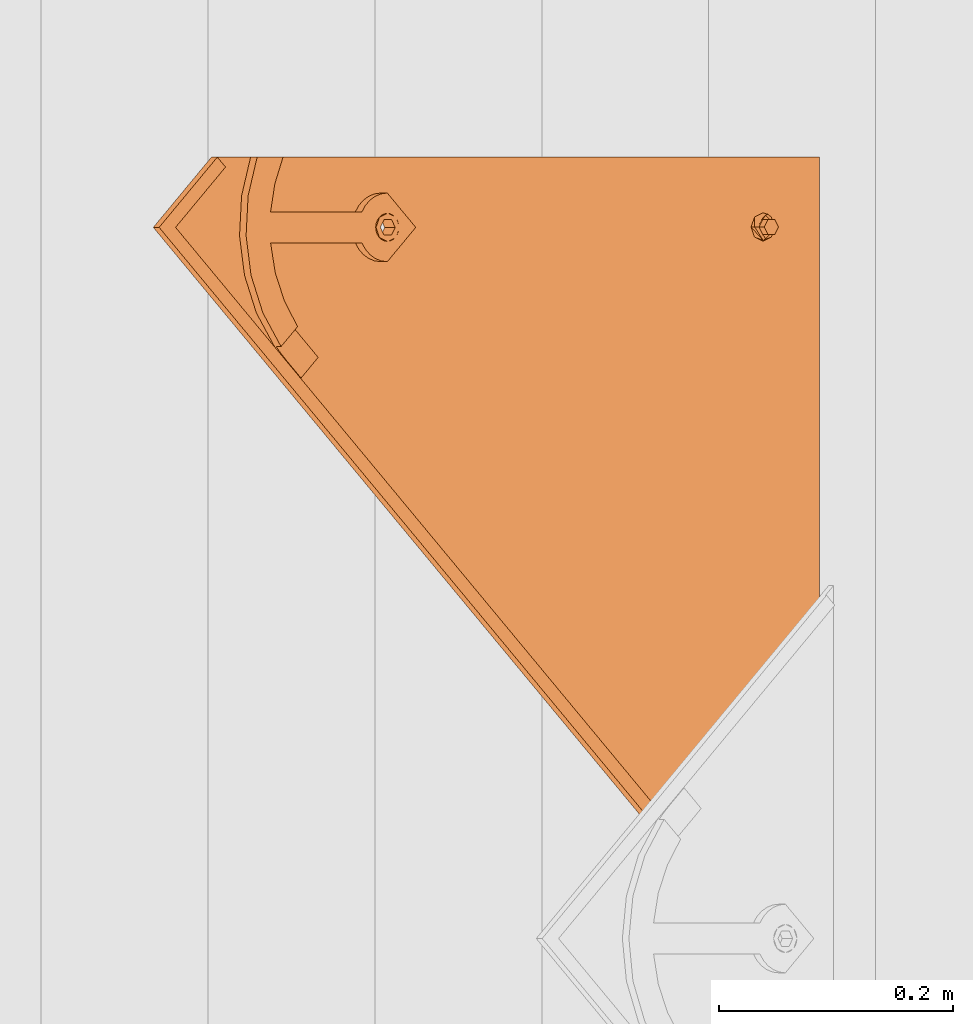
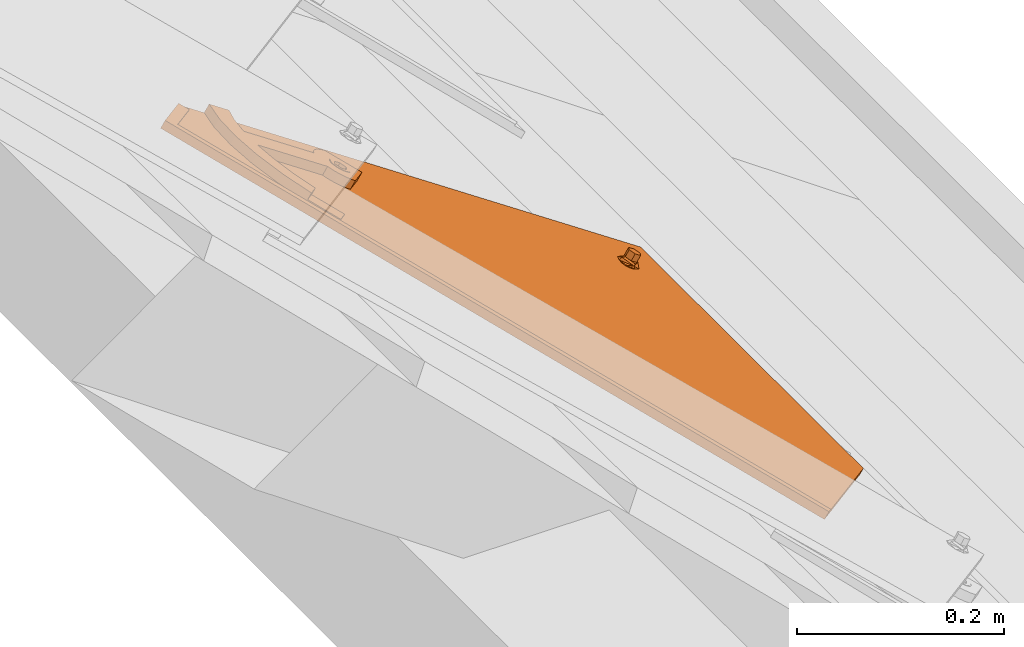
# One storey, part 115 of 133: 1 proxy.
"""IFC2X3 building model written with IfcOpenShell, lengths in millimetres."""

from ifc_helpers import new_model, entity, si_unit, converted_unit, derived_unit, direction, frame, origin, place, context, subcontext, project, spatial, faceted_brep, source, transform, mapped, material, material_list, type_object, type_shapes, element, save


model = new_model("IFC2X3")

# Units and contexts
model_context = context("Model", 3, precision=0.01, world=origin(), true_north=direction((6.12303176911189e-17, 1.0)))
body_context = subcontext(model_context, "Body", "Model", "MODEL_VIEW")
ifc_project = project(units=[si_unit("LENGTHUNIT", "METRE", prefix="MILLI"), si_unit("AREAUNIT", "SQUARE_METRE"), si_unit("VOLUMEUNIT", "CUBIC_METRE"), converted_unit("PLANEANGLEUNIT", "DEGREE", entity("IfcRatioMeasure", 0.0174532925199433), si_unit("PLANEANGLEUNIT", "RADIAN"), dimensions=[0, 0, 0, 0, 0, 0, 0]), si_unit("MASSUNIT", "GRAM", prefix="KILO"), derived_unit("MASSDENSITYUNIT", [(si_unit("MASSUNIT", "GRAM", prefix="KILO"), 1), (si_unit("LENGTHUNIT", "METRE"), -3)]), si_unit("TIMEUNIT", "SECOND"), si_unit("FREQUENCYUNIT", "HERTZ"), si_unit("THERMODYNAMICTEMPERATUREUNIT", "DEGREE_CELSIUS"), derived_unit("THERMALTRANSMITTANCEUNIT", [(si_unit("MASSUNIT", "GRAM", prefix="KILO"), 1), (si_unit("THERMODYNAMICTEMPERATUREUNIT", "KELVIN"), -1), (si_unit("TIMEUNIT", "SECOND"), -3)]), derived_unit("VOLUMETRICFLOWRATEUNIT", [(si_unit("LENGTHUNIT", "METRE"), 3), (si_unit("TIMEUNIT", "SECOND"), -1)]), si_unit("ELECTRICCURRENTUNIT", "AMPERE"), si_unit("ELECTRICVOLTAGEUNIT", "VOLT"), si_unit("POWERUNIT", "WATT"), si_unit("FORCEUNIT", "NEWTON", prefix="KILO"), si_unit("ILLUMINANCEUNIT", "LUX"), si_unit("LUMINOUSFLUXUNIT", "LUMEN"), si_unit("LUMINOUSINTENSITYUNIT", "CANDELA"), derived_unit("USERDEFINED", [(si_unit("MASSUNIT", "GRAM", prefix="KILO"), -1), (si_unit("LENGTHUNIT", "METRE"), -2), (si_unit("TIMEUNIT", "SECOND"), 3), (si_unit("LUMINOUSFLUXUNIT", "LUMEN"), 1)]), derived_unit("LINEARVELOCITYUNIT", [(si_unit("LENGTHUNIT", "METRE"), 1), (si_unit("TIMEUNIT", "SECOND"), -1)]), si_unit("PRESSUREUNIT", "PASCAL"), derived_unit("USERDEFINED", [(si_unit("LENGTHUNIT", "METRE"), -2), (si_unit("MASSUNIT", "GRAM", prefix="KILO"), 1), (si_unit("TIMEUNIT", "SECOND"), -2)])], contexts=[model_context])

# Site, building, storey
site_placement = place(None, origin())
site = spatial("IfcSite", under=ifc_project, at=site_placement, Name="Default", CompositionType="ELEMENT")
building_placement = place(site_placement, origin())
building = spatial("IfcBuilding", under=site, at=building_placement, CompositionType="ELEMENT")
storey_placement = place(building_placement, origin())
storey = spatial("IfcBuildingStorey", under=building, at=storey_placement, Name="Level 1", CompositionType="ELEMENT", Elevation=0.0)

# Proxy
ifc_material_1 = material(Name="Rubber - Sunstyle - Black")
ifc_material_2 = material(Name="Glass - Sunstyle - Tainted Black")
ifc_material_list_1 = material_list([ifc_material_1, ifc_material_2])
ifc_material_list_2 = material_list([ifc_material_1, ifc_material_2])
building_element_proxy_type = type_object("IfcBuildingElementProxyType", Name="Corner Bottom Big Right - Black", PredefinedType="NOTDEFINED", material=ifc_material_list_2)
shared_shape = source(origin(), body_context, "Body", "Brep", [
    faceted_brep([(0.270009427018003, -2.025866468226, -4.01619789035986), (-5.50419340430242, -5.35913660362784, -3.96037390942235), (-5.50419340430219, -4.99082751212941, 18.0314954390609), (0.270009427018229, -1.65755737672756, 17.9756714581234), (-5.50419340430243, -12.0256768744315, -3.84872594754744), (-5.5041934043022, -11.6573677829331, 18.1431434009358), (0.270009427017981, -15.3589470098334, -3.79290196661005), (0.270009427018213, -14.990637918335, 18.1989673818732), (6.04421225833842, -12.0256768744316, -3.84872594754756), (6.04421225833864, -11.6573677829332, 18.1431434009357), (6.04421225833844, -5.35913660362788, -3.96037390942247), (6.04421225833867, -4.99082751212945, 18.0314954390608), (-8.3336947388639, -16.9265954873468, 18.2313898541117), (0.27000942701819, -20.4898667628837, 18.2910657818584), (-11.8974656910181, -8.32409764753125, 18.0873194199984), (-8.33369473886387, 0.278400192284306, 17.9432489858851), (0.270009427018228, 3.84167146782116, 17.8835730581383), (8.87371359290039, 0.278400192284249, 17.9432489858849), (12.4374845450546, -8.32409764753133, 18.0873194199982), (8.87371359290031, -16.9265954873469, 18.2313898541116), (-11.1602134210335, -6.95050198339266, 20.4858706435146), (-9.50050407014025, -8.25322861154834, 22.3189355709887), (0.270009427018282, -0.940007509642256, 22.9603444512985), (0.27000942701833, 0.300490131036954, 22.3799978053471), (0.270009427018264, 2.4580409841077, 21.3706227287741), (-6.05323627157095, -4.59022324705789, 23.0214764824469), (-6.05323627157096, -11.8906547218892, 23.1437405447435), (0.270009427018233, -18.990246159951, 21.7298281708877), (0.270009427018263, -15.5408704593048, 23.2048725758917), (11.2551842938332, -12.0411541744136, 20.3827540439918), (10.3938597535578, -8.25726753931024, 22.077768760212), (6.59325512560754, -4.59022324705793, 23.0214764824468), (6.5932551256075, -11.8906547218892, 23.1437405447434), (-6.05323627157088, -11.7566262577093, 31.1466287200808), (0.270009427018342, -15.4068419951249, 31.207760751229), (0.270009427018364, -8.10641052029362, 31.0854966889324), (-6.05323627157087, -4.456194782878, 31.0243646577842), (6.59325512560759, -11.7566262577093, 31.1466287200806), (6.59325512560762, -4.45619478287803, 31.024364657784), (0.270009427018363, -0.805979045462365, 30.9632326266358), (0.270009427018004, -8.69240673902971, -3.90454992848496)], [[[0, 1, 2, 3]], [[1, 4, 5, 2]], [[4, 6, 7, 5]], [[6, 8, 9, 7]], [[8, 10, 11, 9]], [[10, 0, 3, 11]], [[12, 7, 13]], [[7, 12, 5]], [[14, 5, 12]], [[5, 14, 2]], [[15, 2, 14]], [[3, 2, 15]], [[15, 16, 3]], [[16, 17, 3]], [[11, 3, 17]], [[11, 17, 18]], [[9, 11, 18]], [[18, 19, 9]], [[7, 9, 19]], [[19, 13, 7]], [[15, 20, 16]], [[21, 22, 23, 24]], [[22, 21, 25]], [[20, 14, 12]], [[15, 14, 20]], [[25, 21, 26]], [[20, 24, 16]], [[12, 13, 27]], [[12, 27, 20]], [[21, 28, 26]], [[21, 27, 28]], [[20, 21, 24]], [[20, 27, 21]], [[19, 29, 13]], [[30, 23, 31]], [[30, 28, 27]], [[24, 23, 30]], [[29, 27, 13]], [[19, 18, 29]], [[29, 30, 27]], [[29, 17, 24]], [[24, 17, 16]], [[31, 32, 30]], [[23, 22, 31]], [[28, 30, 32]], [[29, 24, 30]], [[29, 18, 17]], [[33, 34, 35]], [[35, 36, 33]], [[34, 37, 35]], [[38, 35, 37]], [[35, 38, 39]], [[35, 39, 36]], [[40, 6, 4]], [[4, 1, 40]], [[1, 0, 40]], [[40, 8, 6]], [[0, 10, 40]], [[8, 40, 10]], [[22, 25, 36, 39]], [[25, 26, 33, 36]], [[26, 28, 34, 33]], [[28, 32, 37, 34]], [[32, 31, 38, 37]], [[31, 22, 39, 38]]]),
    faceted_brep([(-518.247351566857, 79.9143812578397, 14.9652572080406), (-518.247351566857, 79.9394990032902, 16.4650468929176), (-526.732038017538, 88.4241854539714, 16.3229495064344), (-526.732038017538, 88.399067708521, 14.8231598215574), (-0.00032251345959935, 614.98308737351, 6.00418773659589), (60.1037538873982, 554.895864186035, 7.01049921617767), (51.6190674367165, 546.411177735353, 7.15259660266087), (-0.000322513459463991, 598.016093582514, 6.28834266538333), (-0.000322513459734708, 615.00820511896, 7.50397742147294), (-0.000322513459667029, 598.041211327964, 7.78813235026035), (51.6190674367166, 546.436295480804, 8.65238628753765), (60.1037538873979, 554.920981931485, 8.51028890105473)], [[[0, 1, 2, 3]], [[0, 3, 4, 5, 6, 7]], [[3, 2, 8, 4]], [[2, 1, 9, 10, 11, 8]], [[1, 0, 7, 9]], [[6, 5, 11, 10]], [[4, 8, 11, 5]], [[9, 7, 6, 10]]]),
    faceted_brep([(0.0, 372.774440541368, 20.3195200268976), (0.0, 377.273809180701, 20.2441667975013), (-8.60370416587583, 376.337711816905, 20.2598440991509), (8.60370416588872, 376.337711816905, 20.2598440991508), (6.64022859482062, 381.107009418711, 20.1799702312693), (12.1674751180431, 384.940209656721, 20.1157736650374), (6.64022859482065, 388.773409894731, 20.0515770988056), (8.6037041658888, 393.542707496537, 19.9717032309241), (0.0, 392.606610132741, 19.9873805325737), (0.0, 397.105978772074, 19.9120273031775), (-8.60370416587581, 393.542707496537, 19.9717032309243), (-6.64022859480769, 388.773409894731, 20.0515770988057), (-12.1674751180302, 384.940209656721, 20.1157736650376), (-6.6402285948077, 381.107009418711, 20.1799702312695), (-6.6402282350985, 388.505487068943, 4.05382046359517), (0.0, 392.338687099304, 3.98962390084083), (-6.64022823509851, 380.839087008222, 4.18221358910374), (0.0, 377.005886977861, 4.24641015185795), (6.64022823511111, 380.839087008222, 4.1822135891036), (6.64022823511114, 388.505487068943, 4.05382046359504), (-8.603704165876, 376.069789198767, 4.26208746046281), (0.0, 372.50651792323, 4.32176338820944), (-12.1674751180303, 384.672287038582, 4.11801702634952), (-8.60370416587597, 393.274784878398, 3.97394659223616), (0.0, 396.838056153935, 3.91427066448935), (8.60370416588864, 393.274784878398, 3.97394659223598), (12.1674751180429, 384.672287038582, 4.11801702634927), (8.60370416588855, 376.069789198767, 4.26208746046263)], [[[0, 1, 2]], [[1, 0, 3]], [[3, 4, 1]], [[4, 3, 5]], [[6, 4, 5]], [[5, 7, 6]], [[7, 8, 6]], [[8, 7, 9]], [[8, 9, 10]], [[10, 11, 8]], [[12, 11, 10]], [[2, 13, 12]], [[12, 13, 11]], [[13, 2, 1]], [[8, 11, 14, 15]], [[11, 13, 16, 14]], [[13, 1, 17, 16]], [[1, 4, 18, 17]], [[4, 6, 19, 18]], [[6, 8, 15, 19]], [[20, 17, 21]], [[17, 20, 16]], [[22, 16, 20]], [[14, 16, 22]], [[23, 14, 22]], [[15, 14, 23]], [[23, 24, 15]], [[24, 25, 15]], [[19, 15, 25]], [[19, 25, 26]], [[26, 18, 19]], [[26, 27, 18]], [[17, 18, 27]], [[27, 21, 17]], [[24, 23, 10, 9]], [[10, 23, 22, 12]], [[20, 21, 0, 2]], [[20, 2, 12, 22]], [[21, 27, 3, 0]], [[3, 27, 26, 5]], [[25, 24, 9, 7]], [[25, 7, 5, 26]]]),
    faceted_brep([(-10.3923048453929, 390.78484910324, 9.75895037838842), (-8.48528137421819, 393.269782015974, 9.7173339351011), (-0.00032251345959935, 614.983087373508, 6.0041877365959), (-11.5911099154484, 387.891083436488, 9.8074137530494), (-6.0, 395.176538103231, 9.68540051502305), (-3.10582854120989, 396.37517508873, 9.6653263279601), (60.1037538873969, 554.895864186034, 7.01049921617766), (0.0, 396.784007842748, 9.65847939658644), (3.1058285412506, 396.37517508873, 9.6653263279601), (6.0, 395.176538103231, 9.68540051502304), (8.48528137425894, 393.269782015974, 9.7173339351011), (10.3923048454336, 390.784849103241, 9.75895037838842), (11.5911099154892, 387.891083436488, 9.8074137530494), (12.0, 384.785690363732, 9.8594213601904), (11.5911099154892, 381.680297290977, 9.9114289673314), (60.103753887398, -67.933460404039, 17.4413406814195), (10.3923048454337, 378.786531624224, 9.95989234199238), (6.58173564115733, -3.94243384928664, 16.369650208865), (8.48528137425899, 376.301598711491, 10.0015087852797), (5.31038666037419, -2.28581190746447, 16.3419059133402), (6.0, 374.394842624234, 10.0334422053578), (3.65353241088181, -1.01464118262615, 16.3206169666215), (3.10582854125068, 373.196205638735, 10.0535163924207), (1.72408477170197, -0.215549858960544, 16.3072341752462), (0.0, 372.787372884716, 10.0603633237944), (-0.346467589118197, 0.0570053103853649, 16.3026695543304), (-2.41701994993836, -0.215549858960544, 16.3072341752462), (-3.10582854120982, 373.196205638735, 10.0535163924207), (-4.34646758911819, -1.01464118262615, 16.3206169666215), (-6.0, 374.394842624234, 10.0334422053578), (-6.00332183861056, -2.28581190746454, 16.3419059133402), (-8.48528137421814, 376.301598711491, 10.0015087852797), (-370.355661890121, -67.9334604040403, 17.4413406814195), (-10.3923048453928, 378.786531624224, 9.95989234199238), (-526.732038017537, 88.3990677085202, 14.8231598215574), (-11.5911099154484, 381.680297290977, 9.9114289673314), (-12.0, 384.785690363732, 9.8594213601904), (-7.27467081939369, -3.94243384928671, 16.369650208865), (-8.07387419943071, -5.87161096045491, 16.4019591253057), (-8.34646758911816, -7.94187300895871, 16.4366308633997), (-8.0738741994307, -10.0121350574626, 16.4713026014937), (-7.27467081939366, -11.9413121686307, 16.5036115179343), (-6.00332183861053, -13.5979341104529, 16.5313558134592), (-4.34646758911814, -14.8691048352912, 16.5526447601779), (-2.41701994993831, -15.6681961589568, 16.5660275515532), (7.38093902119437, -5.87161096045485, 16.4019591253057), (7.65353241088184, -7.94187300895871, 16.4366308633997), (7.38093902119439, -10.0121350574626, 16.4713026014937), (6.58173564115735, -11.9413121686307, 16.5036115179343), (5.31038666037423, -13.5979341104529, 16.5313558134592), (3.65353241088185, -14.8691048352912, 16.5526447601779), (1.72408477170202, -15.6681961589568, 16.5660275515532), (-0.346467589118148, -15.9407513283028, 16.570592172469), (-370.355661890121, -68.0590491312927, 9.94239225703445), (-8.0738741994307, -10.1377237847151, 8.97235417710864), (-7.27467081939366, -12.0669008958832, 9.00466309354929), (-8.34646758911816, -8.06746173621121, 8.93768243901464), (-6.00332183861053, -13.7235228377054, 9.03240738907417), (-4.34646758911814, -14.9946935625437, 9.05369633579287), (60.103753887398, -68.0590491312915, 9.94239225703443), (-8.07387419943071, -5.99719968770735, 8.90301070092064), (-7.27467081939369, -4.06802257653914, 8.87070178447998), (-6.00332183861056, -2.41140063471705, 8.8429574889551), (-8.48528137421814, 376.176009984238, 2.50256036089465), (-10.3923048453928, 378.660942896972, 2.46094391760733), (-526.732038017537, 88.2734789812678, 7.32421139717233), (-11.5911099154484, 381.554708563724, 2.41248054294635), (-12.0, 384.66010163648, 2.36047293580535), (-11.5911099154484, 387.765494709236, 2.30846532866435), (-0.00032251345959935, 614.857498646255, -1.49476068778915), (-10.3923048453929, 390.659260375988, 2.26000195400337), (-8.48528137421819, 393.144193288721, 2.21838551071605), (-6.0, 395.050949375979, 2.18645209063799), (-3.10582854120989, 396.249586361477, 2.16637790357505), (60.1037538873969, 554.770275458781, -0.488449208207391), (0.0, 396.658419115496, 2.15953097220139), (3.1058285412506, 396.249586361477, 2.16637790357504), (6.0, 395.050949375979, 2.18645209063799), (8.48528137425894, 393.144193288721, 2.21838551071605), (10.3923048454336, 390.659260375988, 2.26000195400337), (11.5911099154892, 387.765494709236, 2.30846532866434), (12.0, 384.66010163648, 2.36047293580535), (11.5911099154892, 381.554708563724, 2.41248054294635), (-2.41701994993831, -15.7937848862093, 9.06707912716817), (-0.346467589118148, -16.0663400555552, 9.07164374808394), (1.72408477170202, -15.7937848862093, 9.06707912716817), (3.65353241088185, -14.9946935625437, 9.05369633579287), (5.31038666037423, -13.7235228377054, 9.03240738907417), (6.58173564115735, -12.0669008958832, 9.00466309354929), (7.38093902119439, -10.1377237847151, 8.97235417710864), (7.65353241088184, -8.06746173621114, 8.93768243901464), (7.38093902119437, -5.99719968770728, 8.90301070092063), (6.58173564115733, -4.06802257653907, 8.87070178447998), (10.3923048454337, 378.660942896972, 2.46094391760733), (-6.0, 374.269253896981, 2.5344937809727), (-4.34646758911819, -1.14022990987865, 8.8216685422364), (-3.10582854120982, 373.070616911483, 2.55456796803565), (-2.41701994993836, -0.341138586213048, 8.8082857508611), (0.0, 372.661784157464, 2.56141489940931), (-0.346467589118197, -0.0685834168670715, 8.80372112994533), (1.72408477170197, -0.341138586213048, 8.8082857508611), (3.10582854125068, 373.070616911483, 2.55456796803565), (3.65353241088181, -1.14022990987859, 8.8216685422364), (6.0, 374.269253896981, 2.5344937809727), (5.31038666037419, -2.41140063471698, 8.8429574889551), (8.48528137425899, 376.176009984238, 2.50256036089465)], [[[0, 1, 2]], [[3, 0, 2]], [[4, 2, 1]], [[2, 4, 5]], [[6, 2, 5]], [[7, 6, 5]], [[7, 8, 6]], [[8, 9, 6]], [[10, 6, 9]], [[6, 10, 11]], [[6, 11, 12]], [[12, 13, 6]], [[13, 14, 6]], [[6, 14, 15]], [[14, 16, 15]], [[17, 15, 16]], [[18, 17, 16]], [[17, 18, 19]], [[18, 20, 19]], [[21, 19, 20]], [[20, 22, 21]], [[23, 21, 22]], [[24, 23, 22]], [[23, 24, 25]], [[26, 25, 24]], [[24, 27, 26]], [[26, 27, 28]], [[29, 28, 27]], [[28, 29, 30]], [[29, 31, 30]], [[32, 30, 31]], [[33, 32, 31]], [[33, 34, 32]], [[33, 35, 34]], [[35, 36, 34]], [[36, 3, 34]], [[3, 2, 34]], [[30, 32, 37]], [[37, 32, 38]], [[32, 39, 38]], [[39, 32, 40]], [[40, 32, 41]], [[42, 41, 32]], [[42, 32, 43]], [[43, 32, 15]], [[15, 44, 43]], [[17, 45, 15]], [[45, 46, 15]], [[47, 15, 46]], [[47, 48, 15]], [[49, 15, 48]], [[15, 49, 50]], [[50, 51, 15]], [[51, 52, 15]], [[52, 44, 15]], [[53, 54, 55]], [[54, 53, 56]], [[53, 55, 57]], [[57, 58, 53]], [[53, 58, 59]], [[60, 56, 53]], [[61, 60, 53]], [[61, 53, 62]], [[63, 62, 53]], [[64, 63, 53]], [[65, 64, 53]], [[65, 66, 64]], [[66, 65, 67]], [[67, 65, 68]], [[65, 69, 68]], [[70, 68, 69]], [[71, 70, 69]], [[72, 71, 69]], [[69, 73, 72]], [[74, 73, 69]], [[75, 73, 74]], [[76, 75, 74]], [[77, 76, 74]], [[74, 78, 77]], [[78, 74, 79]], [[80, 79, 74]], [[80, 74, 81]], [[82, 81, 74]], [[82, 74, 59]], [[59, 58, 83]], [[84, 59, 83]], [[84, 85, 59]], [[85, 86, 59]], [[87, 59, 86]], [[59, 87, 88]], [[59, 88, 89]], [[89, 90, 59]], [[90, 91, 59]], [[91, 92, 59]], [[92, 93, 59]], [[93, 82, 59]], [[94, 62, 63]], [[94, 95, 62]], [[96, 95, 94]], [[97, 95, 96]], [[96, 98, 97]], [[99, 97, 98]], [[99, 98, 100]], [[101, 100, 98]], [[102, 100, 101]], [[103, 102, 101]], [[104, 102, 103]], [[103, 105, 104]], [[105, 92, 104]], [[105, 93, 92]], [[36, 67, 68, 3]], [[3, 68, 70, 0]], [[4, 1, 71, 72]], [[70, 71, 1, 0]], [[5, 4, 72, 73]], [[75, 7, 5, 73]], [[8, 76, 77, 9]], [[9, 77, 78, 10]], [[12, 11, 79, 80]], [[78, 79, 11, 10]], [[13, 12, 80, 81]], [[8, 7, 75, 76]], [[13, 81, 82, 14]], [[14, 82, 93, 16]], [[20, 18, 105, 103]], [[93, 105, 18, 16]], [[22, 20, 103, 101]], [[98, 24, 22, 101]], [[27, 96, 94, 29]], [[29, 94, 63, 31]], [[35, 33, 64, 66]], [[63, 64, 33, 31]], [[36, 35, 66, 67]], [[27, 24, 98, 96]], [[34, 2, 69, 65]], [[32, 34, 65, 53]], [[15, 32, 53, 59]], [[6, 15, 59, 74]], [[2, 6, 74, 69]], [[39, 56, 60, 38]], [[38, 60, 61, 37]], [[28, 30, 62, 95]], [[62, 30, 37, 61]], [[26, 28, 95, 97]], [[26, 97, 99, 25]], [[25, 99, 100, 23]], [[23, 100, 102, 21]], [[17, 19, 104, 92]], [[104, 19, 21, 102]], [[45, 17, 92, 91]], [[45, 91, 90, 46]], [[46, 90, 89, 47]], [[47, 89, 88, 48]], [[50, 49, 87, 86]], [[87, 49, 48, 88]], [[51, 50, 86, 85]], [[51, 85, 84, 52]], [[52, 84, 83, 44]], [[44, 83, 58, 43]], [[41, 42, 57, 55]], [[57, 42, 43, 58]], [[40, 41, 55, 54]], [[40, 54, 56, 39]]]),
    faceted_brep([(-114.2509690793, 483.839345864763, 10.7008696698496), (-128.946713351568, 469.147722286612, 10.9469178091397), (-111.269043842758, 451.472531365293, 11.2429332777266), (-84.944396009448, 477.793488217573, 10.8021227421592), (-102.027571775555, 494.874268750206, 10.5160621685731), (-108.279973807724, 489.512620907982, 10.6058564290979), (0.0, 355.735286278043, 10.3459433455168), (0.0, 373.122276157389, 10.0547545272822), (3.10582854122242, 373.531108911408, 10.0479075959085), (-3.10582854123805, 373.531108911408, 10.0479075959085), (6.0, 374.729745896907, 10.0278334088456), (8.48528137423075, 376.636501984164, 9.99589998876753), (29.3894280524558, 385.120593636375, 9.85381256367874), (-6.0, 374.729745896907, 10.0278334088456), (-8.4852813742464, 376.636501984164, 9.99589998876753), (-29.3894280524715, 385.120593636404, 9.85381256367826), (-10.3923048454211, 379.121434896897, 9.95428354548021), (-11.5911099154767, 382.01520056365, 9.90582017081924), (-12.0, 385.120593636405, 9.85381256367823), (-28.6795527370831, 391.540108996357, 9.74630165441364), (-11.5911099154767, 388.225986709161, 9.80180495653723), (-26.5842195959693, 397.649509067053, 9.64398440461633), (-10.3923048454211, 391.119752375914, 9.75334158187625), (-23.204650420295, 403.153659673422, 9.55180357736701), (-8.48528137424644, 393.604685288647, 9.71172513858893), (-18.704106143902, 407.786665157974, 9.47421226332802), (-6.0, 395.511441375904, 9.67979171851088), (-13.3000000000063, 411.324713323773, 9.41495875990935), (-3.10582854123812, 396.710078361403, 9.65971753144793), (0.0, 397.118911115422, 9.65287060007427), (13.2999999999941, 411.324713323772, 9.41495875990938), (-13.3000000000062, 505.643535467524, 7.83535317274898), (13.2999999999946, 505.643535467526, 7.83535317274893), (-7.21723712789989, 530.953901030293, 7.41146752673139), (-41.1626974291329, 525.784666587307, 7.49803934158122), (-38.7697427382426, 500.828655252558, 7.91599043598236), (-73.2491712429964, 513.560140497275, 7.70276973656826), (-62.9243331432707, 491.42502143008, 8.07347790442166), (-84.9431983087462, 477.752822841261, 8.30245321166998), (-102.027571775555, 494.832405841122, 8.01641269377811), (-108.279973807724, 489.470757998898, 8.10620695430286), (-114.2509690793, 483.79748295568, 8.20122019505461), (-111.269043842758, 451.430668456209, 8.74328380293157), (-128.946713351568, 469.105859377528, 8.44726833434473), (27.0541674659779, 528.834391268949, 7.44696404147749), (37.2599857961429, 501.252149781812, 7.90889795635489), (60.1037538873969, 519.521858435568, 7.60292579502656), (60.1037538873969, 492.795625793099, 8.05052369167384), (3.10582854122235, 396.710078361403, 9.65971753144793), (6.0, 395.511441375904, 9.67979171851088), (18.7041061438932, 407.786665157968, 9.47421226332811), (8.48528137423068, 393.604685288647, 9.71172513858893), (23.2046504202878, 403.153659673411, 9.55180357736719), (10.3923048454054, 391.119752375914, 9.75334158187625), (26.5842195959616, 397.649509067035, 9.64398440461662), (11.591109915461, 388.225986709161, 9.80180495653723), (28.6795527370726, 391.540108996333, 9.74630165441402), (12.0, 385.120593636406, 9.85381256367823), (11.591109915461, 382.01520056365, 9.90582017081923), (10.3923048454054, 379.121434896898, 9.95428354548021), (-38.7697427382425, 500.996106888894, 17.9145883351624), (-41.1626974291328, 525.952118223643, 17.4966372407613), (-73.2491712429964, 513.727592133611, 17.7013676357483), (-62.9243331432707, 491.592473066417, 18.0720758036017), (-13.3000000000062, 505.810987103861, 17.833951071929), (-7.21723712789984, 531.121352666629, 17.4100654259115), (13.2999999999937, 505.810987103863, 17.833951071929), (-13.3000000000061, 411.49216496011, 19.4135566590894), (13.2999999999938, 411.492164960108, 19.4135566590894), (0.0, 397.286362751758, 19.6514684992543), (-3.10582854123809, 396.877529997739, 19.658315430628), (-6.0, 395.678893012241, 19.6783896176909), (-18.7041061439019, 407.954116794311, 19.4728101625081), (-8.48528137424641, 393.772136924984, 19.710323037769), (-23.2046504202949, 403.321111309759, 19.5504014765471), (-10.3923048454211, 391.28720401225, 19.7519394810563), (-26.5842195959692, 397.816960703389, 19.6425823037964), (-11.5911099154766, 388.393438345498, 19.8004028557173), (-28.6795527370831, 391.707560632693, 19.7448995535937), (-12.0, 385.288045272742, 19.8524104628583), (-29.3894280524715, 385.28804527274, 19.8524104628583), (-11.5911099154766, 382.182652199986, 19.9044180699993), (-10.3923048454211, 379.288886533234, 19.9528814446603), (-8.48528137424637, 376.803953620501, 19.9944978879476), (0.0, 355.902737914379, 20.3445412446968), (-6.0, 374.897197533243, 20.0264313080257), (-3.10582854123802, 373.698560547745, 20.0465054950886), (0.0, 373.289727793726, 20.0533524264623), (3.10582854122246, 373.698560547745, 20.0465054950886), (6.0, 374.897197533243, 20.0264313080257), (8.48528137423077, 376.803953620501, 19.9944978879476), (29.3894280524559, 385.288045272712, 19.8524104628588), (10.3923048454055, 379.288886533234, 19.9528814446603), (11.591109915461, 382.182652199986, 19.9044180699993), (12.0, 385.288045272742, 19.8524104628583), (28.6795527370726, 391.70756063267, 19.7448995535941), (11.591109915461, 388.393438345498, 19.8004028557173), (26.5842195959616, 397.816960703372, 19.6425823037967), (10.3923048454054, 391.28720401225, 19.7519394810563), (23.2046504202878, 403.321111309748, 19.5504014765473), (8.48528137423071, 393.772136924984, 19.710323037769), (18.7041061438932, 407.954116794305, 19.4728101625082), (6.0, 395.678893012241, 19.6783896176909), (3.10582854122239, 396.877529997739, 19.658315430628), (27.0541674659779, 529.001842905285, 17.4455619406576), (37.259985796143, 501.419601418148, 17.907495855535), (60.1037538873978, 519.689310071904, 17.6015236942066), (60.1037538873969, 492.963077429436, 18.0491215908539), (-84.9443960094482, 477.919076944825, 18.3010711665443), (-102.027571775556, 494.999857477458, 18.0150105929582)], [[[0, 1, 2, 3, 4, 5]], [[6, 7, 8]], [[7, 6, 9]], [[6, 8, 10]], [[10, 11, 6]], [[6, 11, 12]], [[13, 9, 6]], [[14, 13, 6]], [[14, 6, 15]], [[15, 16, 14]], [[16, 15, 17]], [[17, 15, 18]], [[19, 18, 15]], [[20, 18, 19]], [[19, 21, 20]], [[20, 21, 22]], [[23, 22, 21]], [[23, 24, 22]], [[23, 25, 24]], [[25, 26, 24]], [[26, 25, 27]], [[28, 26, 27]], [[27, 29, 28]], [[30, 29, 27]], [[30, 27, 31]], [[30, 31, 32]], [[31, 33, 32]], [[33, 31, 34]], [[35, 34, 31]], [[34, 35, 36]], [[37, 36, 35]], [[37, 38, 36]], [[36, 38, 39]], [[40, 39, 38]], [[40, 38, 41]], [[38, 42, 41]], [[42, 43, 41]], [[32, 33, 44]], [[44, 45, 32]], [[45, 44, 46]], [[46, 47, 45]], [[48, 29, 30]], [[30, 49, 48]], [[49, 30, 50]], [[50, 51, 49]], [[50, 52, 51]], [[51, 52, 53]], [[54, 53, 52]], [[54, 55, 53]], [[56, 55, 54]], [[57, 55, 56]], [[12, 57, 56]], [[58, 57, 12]], [[12, 11, 59]], [[58, 12, 59]], [[1, 0, 41, 43]], [[2, 1, 43, 42]], [[4, 39, 40, 5]], [[40, 41, 0, 5]], [[3, 2, 42, 38]], [[60, 61, 62]], [[63, 60, 62]], [[64, 61, 60]], [[61, 64, 65]], [[66, 65, 64]], [[66, 64, 67]], [[66, 67, 68]], [[68, 67, 69]], [[67, 70, 69]], [[71, 70, 67]], [[71, 67, 72]], [[72, 73, 71]], [[73, 72, 74]], [[73, 74, 75]], [[74, 76, 75]], [[75, 76, 77]], [[78, 77, 76]], [[78, 79, 77]], [[78, 80, 79]], [[79, 80, 81]], [[82, 81, 80]], [[83, 82, 80]], [[83, 80, 84]], [[85, 83, 84]], [[86, 85, 84]], [[87, 86, 84]], [[87, 84, 88]], [[89, 88, 84]], [[89, 84, 90]], [[91, 90, 84]], [[92, 90, 91]], [[91, 93, 92]], [[93, 91, 94]], [[95, 94, 91]], [[95, 96, 94]], [[95, 97, 96]], [[96, 97, 98]], [[99, 98, 97]], [[98, 99, 100]], [[100, 99, 101]], [[101, 68, 102]], [[100, 101, 102]], [[102, 68, 103]], [[103, 68, 69]], [[66, 104, 65]], [[105, 104, 66]], [[105, 106, 104]], [[106, 105, 107]], [[108, 63, 62]], [[62, 109, 108]], [[66, 68, 30, 32]], [[95, 91, 12, 56]], [[97, 95, 56, 54]], [[54, 52, 99, 97]], [[101, 99, 52, 50]], [[68, 101, 50, 30]], [[91, 84, 6, 12]], [[84, 80, 15, 6]], [[72, 67, 27, 25]], [[74, 72, 25, 23]], [[23, 21, 76, 74]], [[78, 76, 21, 19]], [[80, 78, 19, 15]], [[67, 64, 31, 27]], [[104, 106, 46, 44]], [[65, 104, 44, 33]], [[33, 34, 61, 65]], [[62, 61, 34, 36]], [[4, 109, 62, 36, 39]], [[79, 18, 20, 77]], [[77, 20, 22, 75]], [[71, 73, 24, 26]], [[22, 24, 73, 75]], [[70, 71, 26, 28]], [[29, 69, 70, 28]], [[103, 48, 49, 102]], [[102, 49, 51, 100]], [[96, 98, 53, 55]], [[51, 53, 98, 100]], [[94, 96, 55, 57]], [[103, 69, 29, 48]], [[94, 57, 58, 93]], [[93, 58, 59, 92]], [[89, 90, 11, 10]], [[59, 11, 90, 92]], [[88, 89, 10, 8]], [[7, 87, 88, 8]], [[86, 9, 13, 85]], [[85, 13, 14, 83]], [[81, 82, 16, 17]], [[14, 16, 82, 83]], [[79, 81, 17, 18]], [[86, 87, 7, 9]], [[108, 109, 4, 3]], [[32, 45, 105, 66]], [[47, 107, 105, 45]], [[3, 37, 63, 108]], [[3, 38, 37]], [[35, 31, 64, 60]], [[37, 35, 60, 63]], [[106, 107, 47, 46]]]),
])
type_shapes(building_element_proxy_type, [shared_shape])
proxy_placement = place(storey_placement, frame((4392.22439057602, -2206.36334337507, 600.046424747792), z_axis=(0.573576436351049, 0.0, 0.81915204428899), x_axis=(0.0, 1.0, 0.0)))
element("IfcBuildingElementProxy", 1, at=proxy_placement, inside=storey, type_object=building_element_proxy_type, material=ifc_material_list_1, Name="Roofing_Panels_SunStyle_Tile_Corner-Bottom-Big-Right:Corner Bottom Big Right - Black", ObjectType="Roofing_Panels_SunStyle_Tile_Corner-Bottom-Big-Right:Corner Bottom Big Right - Black", context=body_context, shape_type="MappedRepresentation", body=[
    mapped(shared_shape, transform((0.0, 0.0, 0.0), scale=1.0)),
])

save(model, "model.ifc")
